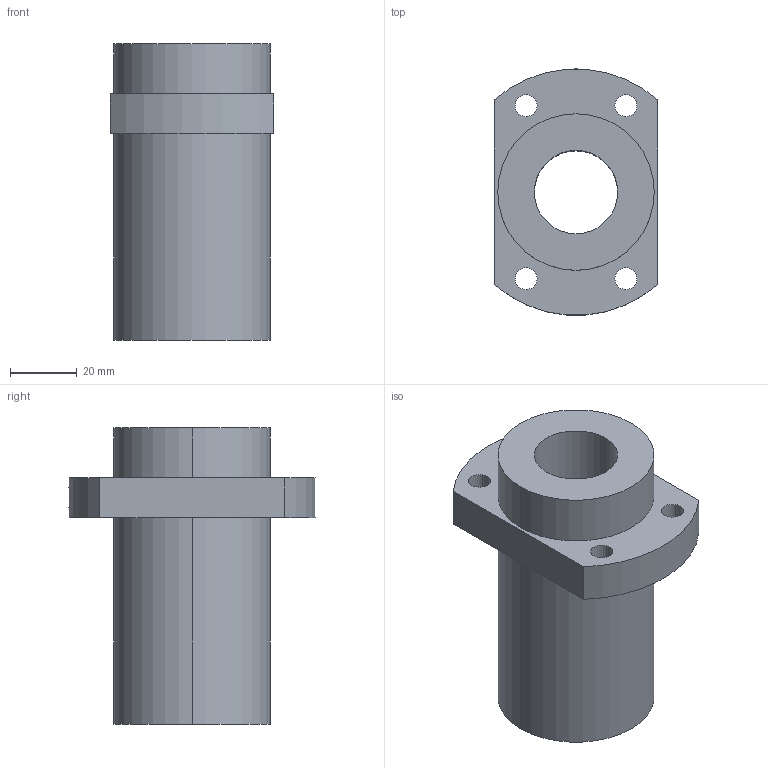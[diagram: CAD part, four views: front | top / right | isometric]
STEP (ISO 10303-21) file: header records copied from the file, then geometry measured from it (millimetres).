
FILE_DESCRIPTION(('STEP AP214'),'1');
FILE_NAME('cgr2525sfyd3_96989-.stp','2025-04-30T07:23:40',('TraceParts'),('TraceParts S.A.'),'Spatial InterOp 3D',' ',' ');
FILE_SCHEMA(('AUTOMOTIVE_DESIGN { 1 0 10303 214 1 1 1 1 }'));
Length unit declared in the file: millimetre
Products named in the file (1): cgr2525sfyd3_96989-
Bounding box: 49 x 73.88 x 89 mm (x, y, z)
Volume: 128065 mm3; surface area: 27665.9 mm2
Topology: 1 solids, 1 shells, 37 faces, 86 edges, 54 vertices
Faces by surface type: cylinder 24, plane 7, cone 6
Entity records: 1510 total; most frequent: CARTESIAN_POINT 294, DIRECTION 204, ORIENTED_EDGE 172, EDGE_CURVE 86, AXIS2_PLACEMENT_3D 84, VERTEX_POINT 54, EDGE_LOOP 52, CIRCLE 46
